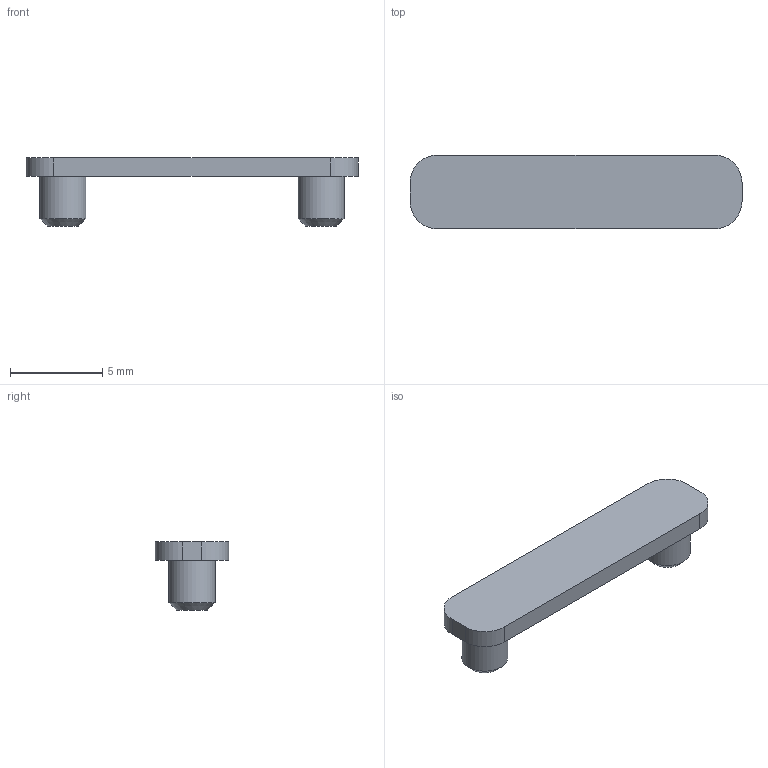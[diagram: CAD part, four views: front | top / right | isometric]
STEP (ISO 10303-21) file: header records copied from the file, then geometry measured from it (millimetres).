
FILE_DESCRIPTION(/* description */ ('Unknown'),/* implementation_level */ '2;1');
FILE_NAME(/* name */ 'track-joiner-O27',/* time_stamp */ '2024-10-03T12:22:37-05:00',/* author */ ('Unknown'),/* organization */ ('Unknown'),/* preprocessor_version */ 'ST-DEVELOPER v18.102',/* originating_system */ 'Solid Edge',/* authorisation */ 'Unknown');
FILE_SCHEMA (('AUTOMOTIVE_DESIGN {1 0 10303 214 3 1 1}'));
Length unit declared in the file: millimetre
Products named in the file (1): track-joiner-O27
Bounding box: 18 x 4 x 3.7 mm (x, y, z)
Volume: 95.5 mm3; surface area: 219.9 mm2
Topology: 1 solids, 1 shells, 16 faces, 34 edges, 22 vertices
Faces by surface type: plane 8, cylinder 6, cone 2
Full cylindrical faces by diameter (mm): 2.5 x2
Entity records: 446 total; most frequent: DIRECTION 78, CARTESIAN_POINT 69, ORIENTED_EDGE 60, AXIS2_PLACEMENT_3D 31, EDGE_CURVE 30, VERTEX_POINT 22, EDGE_LOOP 22, FACE_BOUND 22
